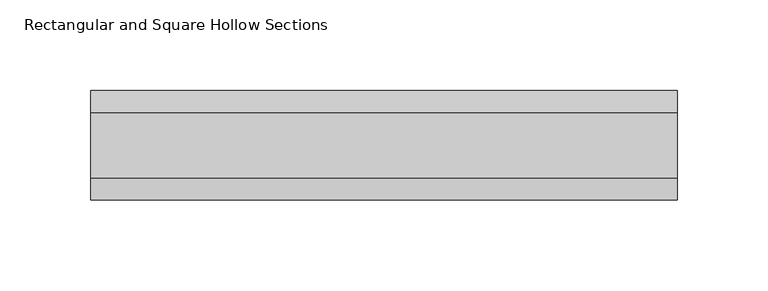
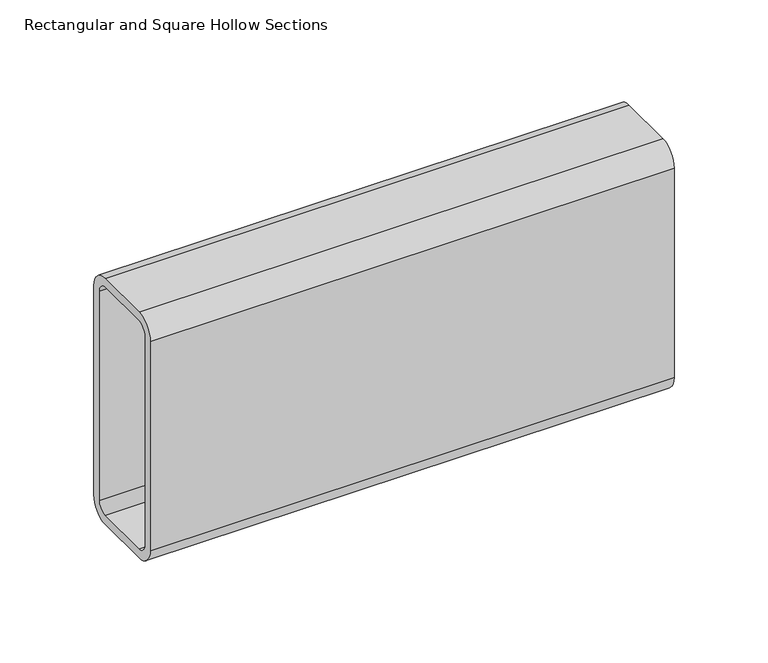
"""IFC4 building model written with IfcOpenShell, lengths in millimetres: beam geometry, Rectangular and Square Hollow Sections : TREC160x60x6."""

from ifc_helpers import new_model, si_unit, point, frame, frame_2d, origin, place, context, project, spatial, polyline, circle_curve, trimmed, segment, composite_curve, outline, extrude, source, transform, mapped, element, save


def rectangular_and_square_hollow_sections_709efb63(model_context):
    return source(origin(), model_context, "Body", "SweptSolid", [
        extrude(outline(composite_curve([segment(polyline([(30.0, 68.0), (30.0, -68.0)]), True, "CONTINUOUS"), segment(trimmed(circle_curve(frame_2d((18.0, -68.0)), 12.0), [point((30.0, -68.0))], [point((18.0, -80.0))], False, "CARTESIAN"), True, "CONTINUOUS"), segment(polyline([(18.0, -80.0), (-18.0, -80.0)]), True, "CONTINUOUS"), segment(trimmed(circle_curve(frame_2d((-18.0, -68.0)), 12.0), [point((-18.0, -80.0))], [point((-30.0, -68.0))], False, "CARTESIAN"), True, "CONTINUOUS"), segment(polyline([(-30.0, -68.0), (-30.0, 68.0)]), True, "CONTINUOUS"), segment(trimmed(circle_curve(frame_2d((-18.0, 68.0)), 12.0), [point((-30.0, 68.0))], [point((-18.0, 80.0))], False, "CARTESIAN"), True, "CONTINUOUS"), segment(polyline([(-18.0, 80.0), (18.0, 80.0)]), True, "CONTINUOUS"), segment(trimmed(circle_curve(frame_2d((18.0, 68.0)), 12.0), [point((18.0, 80.0))], [point((30.0, 68.0))], False, "CARTESIAN"), True, "CONTINUOUS")], self_intersect=False), holes=[composite_curve([segment(trimmed(circle_curve(frame_2d((-18.0, 68.0)), 6.0), [point((-18.0, 74.0))], [point((-24.0, 68.0))], True, "CARTESIAN"), True, "CONTINUOUS"), segment(polyline([(-24.0, 68.0), (-24.0, -68.0)]), True, "CONTINUOUS"), segment(trimmed(circle_curve(frame_2d((-18.0, -68.0)), 6.0), [point((-24.0, -68.0))], [point((-18.0, -74.0))], True, "CARTESIAN"), True, "CONTINUOUS"), segment(polyline([(-18.0, -74.0), (18.0, -74.0)]), True, "CONTINUOUS"), segment(trimmed(circle_curve(frame_2d((18.0, -68.0)), 6.0), [point((18.0, -74.0))], [point((24.0, -68.0))], True, "CARTESIAN"), True, "CONTINUOUS"), segment(polyline([(24.0, -68.0), (24.0, 68.0)]), True, "CONTINUOUS"), segment(trimmed(circle_curve(frame_2d((18.0, 68.0)), 6.0), [point((24.0, 68.0))], [point((18.0, 74.0))], True, "CARTESIAN"), True, "CONTINUOUS"), segment(polyline([(18.0, 74.0), (-18.0, 74.0)]), True, "CONTINUOUS")], self_intersect=False)]), frame((-161.0, 0.0, 0.0), z_axis=(1.0, 0.0, 0.0), x_axis=(0.0, 1.0, 0.0)), (0.0, 0.0, 1.0), 322.0),
    ])


if __name__ == "__main__":
    model = new_model("IFC4")
    model_context = context("Model", 3, world=origin())
    ifc_project = project(units=[si_unit("LENGTHUNIT", "METRE", prefix="MILLI")], contexts=[model_context])
    site = spatial("IfcSite", under=ifc_project)
    building = spatial("IfcBuilding", under=site)
    placement = place(None, origin())
    rectangular_and_square_hollow_sections_shape = rectangular_and_square_hollow_sections_709efb63(model_context)
    element("IfcBeam", 1, ObjectType="Rectangular and Square Hollow Sections : TREC160x60x6", at=placement, inside=building, context=model_context, shape_type="MappedRepresentation", body=[
        mapped(rectangular_and_square_hollow_sections_shape, transform((0.0, 0.0, 0.0), x_axis=(1.0, 0.0, 0.0), y_axis=(0.0, 1.0, 0.0), z_axis=(0.0, 0.0, 1.0))),
    ])
    save(model, "model.ifc")
